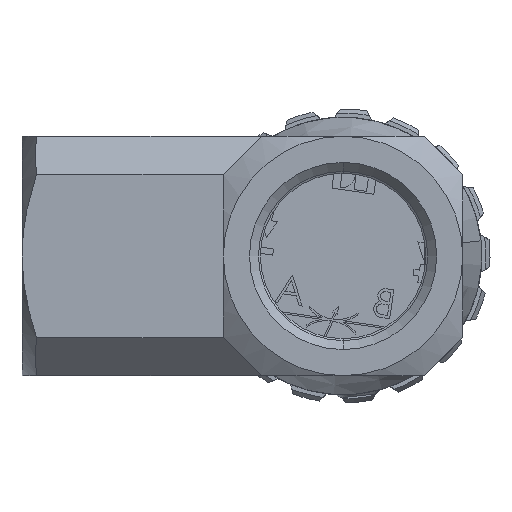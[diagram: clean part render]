
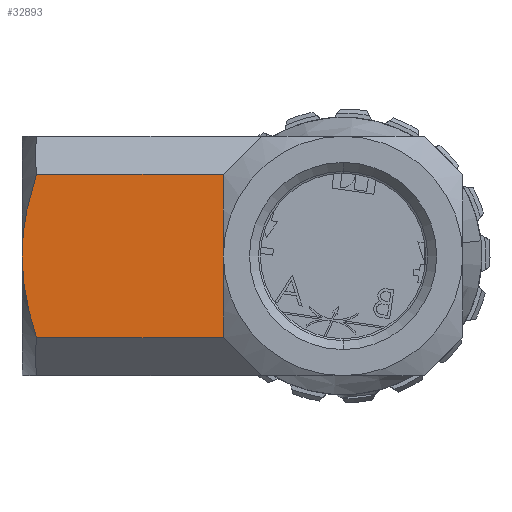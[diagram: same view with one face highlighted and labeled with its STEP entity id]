
A CAD part, front view. The second image highlights one B-rep face of the part: STEP entity #32893.
In plain terms, the highlighted planar face has unit normal (0, -1, 0).
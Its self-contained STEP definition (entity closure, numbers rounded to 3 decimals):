
#31 = CARTESIAN_POINT ( 'NONE',  ( -28.164, -11., 7.5 ) ) ;
#1512 = CARTESIAN_POINT ( 'NONE',  ( -29.5, -11., 11. ) ) ;
#2583 = CARTESIAN_POINT ( 'NONE',  ( -29.341, -11., 2.555 ) ) ;
#3095 = ORIENTED_EDGE ( 'NONE', *, *, #10237, .T. ) ;
#3314 = ORIENTED_EDGE ( 'NONE', *, *, #14331, .T. ) ;
#3496 = AXIS2_PLACEMENT_3D ( 'NONE', #1512, #19359, #4105 ) ;
#3770 = VECTOR ( 'NONE', #10973, 1000. ) ;
#4105 = DIRECTION ( 'NONE',  ( 0., 0., -1. ) ) ;
#4146 = CARTESIAN_POINT ( 'NONE',  ( -29.5, -11., -1.278 ) ) ;
#4194 = ORIENTED_EDGE ( 'NONE', *, *, #19492, .T. ) ;
#4593 = B_SPLINE_CURVE_WITH_KNOTS ( 'NONE', 3,
 ( #31, #15283, #27927, #17846, #2583, #20384, #5140, #22937 ),
 .UNSPECIFIED., .F., .F.,
 ( 4, 2, 2, 4 ),
 ( 0.028, 0.032, 0.034, 0.036 ),
 .UNSPECIFIED. ) ;
#5140 = CARTESIAN_POINT ( 'NONE',  ( -29.5, -11., 0.638 ) ) ;
#8994 = LINE ( 'NONE', #13798, #20931 ) ;
#9224 = EDGE_CURVE ( 'NONE', #28406, #23426, #8994, .T. ) ;
#9421 = FACE_OUTER_BOUND ( 'NONE', #31400, .T. ) ;
#10237 = EDGE_CURVE ( 'NONE', #12550, #31223, #4593, .T. ) ;
#10579 = LINE ( 'NONE', #16108, #3770 ) ;
#10744 = CARTESIAN_POINT ( 'NONE',  ( -28.164, -11., 7.5 ) ) ;
#10973 = DIRECTION ( 'NONE',  ( -1., 0., 0. ) ) ;
#11058 = VECTOR ( 'NONE', #17193, 1000. ) ;
#11806 = LINE ( 'NONE', #19735, #11058 ) ;
#12550 = VERTEX_POINT ( 'NONE', #10744 ) ;
#13798 = CARTESIAN_POINT ( 'NONE',  ( -11., -11., -11. ) ) ;
#14331 = EDGE_CURVE ( 'NONE', #28406, #12550, #10579, .T. ) ;
#14395 = CARTESIAN_POINT ( 'NONE',  ( -28.898, -11., -5.043 ) ) ;
#15283 = CARTESIAN_POINT ( 'NONE',  ( -28.559, -11., 6.285 ) ) ;
#15680 = B_SPLINE_CURVE_WITH_KNOTS ( 'NONE', 3,
 ( #21926, #4146, #29607, #14395, #32134, #16972 ),
 .UNSPECIFIED., .F., .F.,
 ( 4, 2, 4 ),
 ( 0.036, 0.04, 0.043 ),
 .UNSPECIFIED. ) ;
#16108 = CARTESIAN_POINT ( 'NONE',  ( -29.5, -11., 7.5 ) ) ;
#16972 = CARTESIAN_POINT ( 'NONE',  ( -28.164, -11., -7.5 ) ) ;
#17193 = DIRECTION ( 'NONE',  ( 1., 0., 0. ) ) ;
#17846 = CARTESIAN_POINT ( 'NONE',  ( -29.248, -11., 3.185 ) ) ;
#19359 = DIRECTION ( 'NONE',  ( 0., -1., 0. ) ) ;
#19492 = EDGE_CURVE ( 'NONE', #31223, #31026, #15680, .T. ) ;
#19648 = CARTESIAN_POINT ( 'NONE',  ( -11., -11., -7.5 ) ) ;
#19735 = CARTESIAN_POINT ( 'NONE',  ( -11., -11., -7.5 ) ) ;
#19937 = CARTESIAN_POINT ( 'NONE',  ( -28.164, -11., -7.5 ) ) ;
#20384 = CARTESIAN_POINT ( 'NONE',  ( -29.467, -11., 1.283 ) ) ;
#20902 = ORIENTED_EDGE ( 'NONE', *, *, #9224, .F. ) ;
#20931 = VECTOR ( 'NONE', #26565, 1000. ) ;
#21926 = CARTESIAN_POINT ( 'NONE',  ( -29.5, -11., 0. ) ) ;
#22937 = CARTESIAN_POINT ( 'NONE',  ( -29.5, -11., 0. ) ) ;
#23426 = VERTEX_POINT ( 'NONE', #19648 ) ;
#26153 = ORIENTED_EDGE ( 'NONE', *, *, #32608, .T. ) ;
#26565 = DIRECTION ( 'NONE',  ( 0., 0., -1. ) ) ;
#26793 = PLANE ( 'NONE',  #3496 ) ;
#27927 = CARTESIAN_POINT ( 'NONE',  ( -28.894, -11., 5.058 ) ) ;
#28404 = CARTESIAN_POINT ( 'NONE',  ( -29.5, -11., 0. ) ) ;
#28406 = VERTEX_POINT ( 'NONE', #32771 ) ;
#29607 = CARTESIAN_POINT ( 'NONE',  ( -29.369, -11., -2.541 ) ) ;
#31026 = VERTEX_POINT ( 'NONE', #19937 ) ;
#31223 = VERTEX_POINT ( 'NONE', #28404 ) ;
#31400 = EDGE_LOOP ( 'NONE', ( #3314, #3095, #4194, #26153, #20902 ) ) ;
#32134 = CARTESIAN_POINT ( 'NONE',  ( -28.559, -11., -6.287 ) ) ;
#32608 = EDGE_CURVE ( 'NONE', #31026, #23426, #11806, .T. ) ;
#32771 = CARTESIAN_POINT ( 'NONE',  ( -11., -11., 7.5 ) ) ;
#32893 = ADVANCED_FACE ( 'NONE', ( #9421 ), #26793, .T. ) ;
